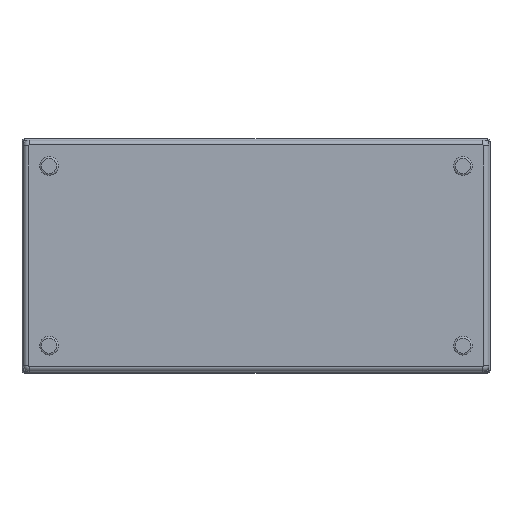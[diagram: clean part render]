
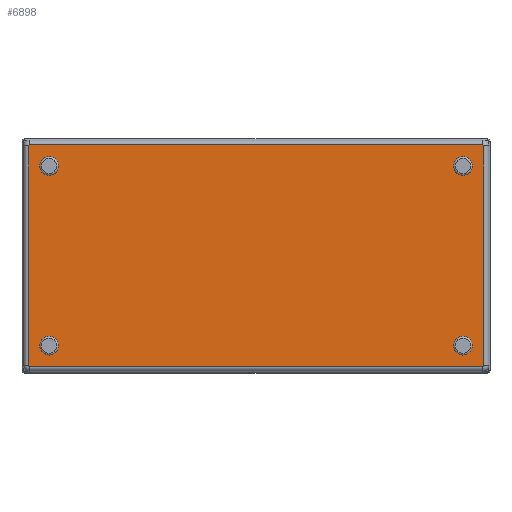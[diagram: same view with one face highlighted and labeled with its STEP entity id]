
A CAD part, top view. The second image highlights one B-rep face of the part: STEP entity #6898.
In plain terms, the highlighted planar face has unit normal (0, 0, 1).
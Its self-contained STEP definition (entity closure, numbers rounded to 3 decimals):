
#2 = VECTOR ( 'NONE', #3777, 1000. ) ;
#135 = DIRECTION ( 'NONE',  ( -1., 0., 0. ) ) ;
#284 = CARTESIAN_POINT ( 'NONE',  ( -176.8, 76.8, 0. ) ) ;
#292 = FACE_OUTER_BOUND ( 'NONE', #307, .T. ) ;
#307 = EDGE_LOOP ( 'NONE', ( #7130, #1330, #3849, #3159, #4090, #7014, #5215, #4402 ) ) ;
#312 = AXIS2_PLACEMENT_3D ( 'NONE', #4424, #2745, #3747 ) ;
#472 = CARTESIAN_POINT ( 'NONE',  ( 194.8, -94., 0. ) ) ;
#560 = EDGE_CURVE ( 'NONE', #5344, #5344, #5931, .T. ) ;
#627 = DIRECTION ( 'NONE',  ( 0., 1., 0. ) ) ;
#632 = EDGE_CURVE ( 'NONE', #3723, #4181, #2611, .T. ) ;
#699 = LINE ( 'NONE', #2869, #870 ) ;
#726 = EDGE_CURVE ( 'NONE', #5124, #3723, #1616, .T. ) ;
#746 = VECTOR ( 'NONE', #1134, 1000. ) ;
#812 = DIRECTION ( 'NONE',  ( 0., 0., -1. ) ) ;
#820 = DIRECTION ( 'NONE',  ( 0., 0., 1. ) ) ;
#842 = AXIS2_PLACEMENT_3D ( 'NONE', #4273, #3597, #6534 ) ;
#848 = FACE_BOUND ( 'NONE', #1567, .T. ) ;
#859 = AXIS2_PLACEMENT_3D ( 'NONE', #6792, #3407, #135 ) ;
#870 = VECTOR ( 'NONE', #627, 1000. ) ;
#878 = DIRECTION ( 'NONE',  ( -1., 0., 0. ) ) ;
#952 = CARTESIAN_POINT ( 'NONE',  ( -194., 94.8, 0. ) ) ;
#1053 = CARTESIAN_POINT ( 'NONE',  ( -184.8, -76.8, 0. ) ) ;
#1134 = DIRECTION ( 'NONE',  ( 0., -1., 0. ) ) ;
#1143 = CARTESIAN_POINT ( 'NONE',  ( 194., -94., 0. ) ) ;
#1330 = ORIENTED_EDGE ( 'NONE', *, *, #3479, .T. ) ;
#1432 = DIRECTION ( 'NONE',  ( 0., 0., 1. ) ) ;
#1439 = CARTESIAN_POINT ( 'NONE',  ( 194., -94.8, 0. ) ) ;
#1499 = CIRCLE ( 'NONE', #312, 8. ) ;
#1567 = EDGE_LOOP ( 'NONE', ( #2368 ) ) ;
#1576 = EDGE_LOOP ( 'NONE', ( #3558 ) ) ;
#1616 = LINE ( 'NONE', #952, #2 ) ;
#1680 = EDGE_CURVE ( 'NONE', #7265, #4058, #3223, .T. ) ;
#1813 = CARTESIAN_POINT ( 'NONE',  ( 194., 94.8, 0. ) ) ;
#1831 = ORIENTED_EDGE ( 'NONE', *, *, #4950, .T. ) ;
#1940 = CARTESIAN_POINT ( 'NONE',  ( 194., -94.8, 0. ) ) ;
#1955 = CARTESIAN_POINT ( 'NONE',  ( -184.8, 76.8, 0. ) ) ;
#1967 = AXIS2_PLACEMENT_3D ( 'NONE', #7327, #6200, #2158 ) ;
#2062 = CARTESIAN_POINT ( 'NONE',  ( -194., -94.8, 0. ) ) ;
#2158 = DIRECTION ( 'NONE',  ( -1., 0., 0. ) ) ;
#2368 = ORIENTED_EDGE ( 'NONE', *, *, #7002, .T. ) ;
#2407 = DIRECTION ( 'NONE',  ( -1., 0., 0. ) ) ;
#2416 = PLANE ( 'NONE',  #6494 ) ;
#2572 = VECTOR ( 'NONE', #5427, 1000. ) ;
#2611 = CIRCLE ( 'NONE', #5701, 0.8 ) ;
#2674 = CIRCLE ( 'NONE', #1967, 8. ) ;
#2745 = DIRECTION ( 'NONE',  ( 0., 0., -1. ) ) ;
#2758 = EDGE_CURVE ( 'NONE', #5457, #5457, #3596, .T. ) ;
#2869 = CARTESIAN_POINT ( 'NONE',  ( 194.8, 94., 0. ) ) ;
#2885 = EDGE_CURVE ( 'NONE', #4181, #7265, #6228, .T. ) ;
#2892 = CARTESIAN_POINT ( 'NONE',  ( -194.8, -94., 0. ) ) ;
#3043 = CARTESIAN_POINT ( 'NONE',  ( -194., 94., 0. ) ) ;
#3096 = DIRECTION ( 'NONE',  ( -1., 0., 0. ) ) ;
#3159 = ORIENTED_EDGE ( 'NONE', *, *, #726, .T. ) ;
#3223 = CIRCLE ( 'NONE', #842, 0.8 ) ;
#3407 = DIRECTION ( 'NONE',  ( 0., 0., -1. ) ) ;
#3479 = EDGE_CURVE ( 'NONE', #3793, #6825, #699, .T. ) ;
#3558 = ORIENTED_EDGE ( 'NONE', *, *, #2758, .T. ) ;
#3596 = CIRCLE ( 'NONE', #859, 8. ) ;
#3597 = DIRECTION ( 'NONE',  ( 0., 0., 1. ) ) ;
#3603 = FACE_BOUND ( 'NONE', #1576, .T. ) ;
#3622 = DIRECTION ( 'NONE',  ( 0., 0., 1. ) ) ;
#3723 = VERTEX_POINT ( 'NONE', #5472 ) ;
#3747 = DIRECTION ( 'NONE',  ( -1., 0., 0. ) ) ;
#3777 = DIRECTION ( 'NONE',  ( -1., 0., 0. ) ) ;
#3793 = VERTEX_POINT ( 'NONE', #472 ) ;
#3849 = ORIENTED_EDGE ( 'NONE', *, *, #6557, .T. ) ;
#3875 = EDGE_CURVE ( 'NONE', #6538, #3793, #6107, .T. ) ;
#4058 = VERTEX_POINT ( 'NONE', #2062 ) ;
#4068 = EDGE_LOOP ( 'NONE', ( #5373 ) ) ;
#4088 = AXIS2_PLACEMENT_3D ( 'NONE', #1143, #3622, #7325 ) ;
#4090 = ORIENTED_EDGE ( 'NONE', *, *, #632, .T. ) ;
#4167 = CARTESIAN_POINT ( 'NONE',  ( 194., 94., 0. ) ) ;
#4181 = VERTEX_POINT ( 'NONE', #4556 ) ;
#4232 = DIRECTION ( 'NONE',  ( 0., 0., -1. ) ) ;
#4273 = CARTESIAN_POINT ( 'NONE',  ( -194., -94., 0. ) ) ;
#4280 = AXIS2_PLACEMENT_3D ( 'NONE', #284, #4232, #2407 ) ;
#4402 = ORIENTED_EDGE ( 'NONE', *, *, #5952, .T. ) ;
#4424 = CARTESIAN_POINT ( 'NONE',  ( -176.8, -76.8, 0. ) ) ;
#4556 = CARTESIAN_POINT ( 'NONE',  ( -194.8, 94., 0. ) ) ;
#4732 = FACE_BOUND ( 'NONE', #4068, .T. ) ;
#4837 = LINE ( 'NONE', #1439, #2572 ) ;
#4950 = EDGE_CURVE ( 'NONE', #6678, #6678, #2674, .T. ) ;
#5115 = VERTEX_POINT ( 'NONE', #1053 ) ;
#5124 = VERTEX_POINT ( 'NONE', #1813 ) ;
#5156 = CARTESIAN_POINT ( 'NONE',  ( -194.8, -94., 0. ) ) ;
#5215 = ORIENTED_EDGE ( 'NONE', *, *, #1680, .T. ) ;
#5344 = VERTEX_POINT ( 'NONE', #1955 ) ;
#5373 = ORIENTED_EDGE ( 'NONE', *, *, #560, .T. ) ;
#5392 = FACE_BOUND ( 'NONE', #6067, .T. ) ;
#5427 = DIRECTION ( 'NONE',  ( 1., 0., 0. ) ) ;
#5457 = VERTEX_POINT ( 'NONE', #6566 ) ;
#5472 = CARTESIAN_POINT ( 'NONE',  ( -194., 94.8, 0. ) ) ;
#5701 = AXIS2_PLACEMENT_3D ( 'NONE', #3043, #1432, #878 ) ;
#5917 = CARTESIAN_POINT ( 'NONE',  ( 194., 94., 0. ) ) ;
#5931 = CIRCLE ( 'NONE', #4280, 8. ) ;
#5952 = EDGE_CURVE ( 'NONE', #4058, #6538, #4837, .T. ) ;
#6043 = CARTESIAN_POINT ( 'NONE',  ( 168.8, -76.8, 0. ) ) ;
#6067 = EDGE_LOOP ( 'NONE', ( #1831 ) ) ;
#6107 = CIRCLE ( 'NONE', #4088, 0.8 ) ;
#6200 = DIRECTION ( 'NONE',  ( 0., 0., -1. ) ) ;
#6228 = LINE ( 'NONE', #5156, #746 ) ;
#6430 = DIRECTION ( 'NONE',  ( -1., 0., 0. ) ) ;
#6494 = AXIS2_PLACEMENT_3D ( 'NONE', #4167, #812, #6430 ) ;
#6501 = AXIS2_PLACEMENT_3D ( 'NONE', #5917, #820, #3096 ) ;
#6534 = DIRECTION ( 'NONE',  ( -1., 0., 0. ) ) ;
#6538 = VERTEX_POINT ( 'NONE', #1940 ) ;
#6557 = EDGE_CURVE ( 'NONE', #6825, #5124, #7219, .T. ) ;
#6566 = CARTESIAN_POINT ( 'NONE',  ( 168.8, 76.8, 0. ) ) ;
#6678 = VERTEX_POINT ( 'NONE', #6043 ) ;
#6792 = CARTESIAN_POINT ( 'NONE',  ( 176.8, 76.8, 0. ) ) ;
#6825 = VERTEX_POINT ( 'NONE', #6879 ) ;
#6879 = CARTESIAN_POINT ( 'NONE',  ( 194.8, 94., 0. ) ) ;
#6898 = ADVANCED_FACE ( 'NONE', ( #848, #5392, #3603, #4732, #292 ), #2416, .F. ) ;
#7002 = EDGE_CURVE ( 'NONE', #5115, #5115, #1499, .T. ) ;
#7014 = ORIENTED_EDGE ( 'NONE', *, *, #2885, .T. ) ;
#7130 = ORIENTED_EDGE ( 'NONE', *, *, #3875, .T. ) ;
#7219 = CIRCLE ( 'NONE', #6501, 0.8 ) ;
#7265 = VERTEX_POINT ( 'NONE', #2892 ) ;
#7325 = DIRECTION ( 'NONE',  ( -1., 0., 0. ) ) ;
#7327 = CARTESIAN_POINT ( 'NONE',  ( 176.8, -76.8, 0. ) ) ;
